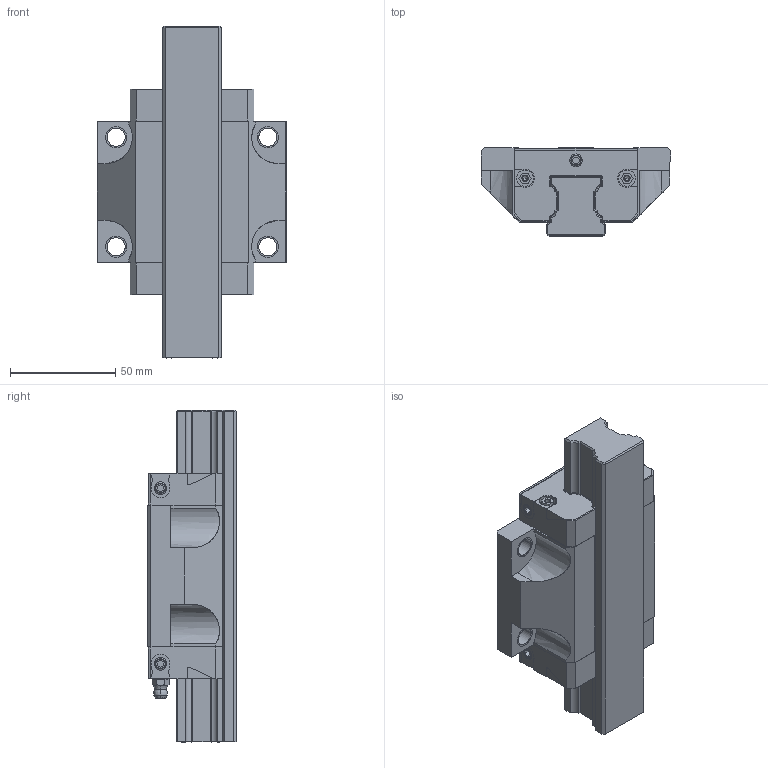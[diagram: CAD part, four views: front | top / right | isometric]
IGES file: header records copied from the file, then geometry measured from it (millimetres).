
Start section: 3D InterOp IGES (v. 2019 1.0.2), Spatial Corp. Copyright (c) 1999-2017.
Global section: file name: R2001 ... 90_size30.igs; native system: Spatial Corp.; preprocessor: 3D InterOp GENERIC/IGES 3.0; author: Noname; organization: Noname; date: 20220629.155230; units: millimetre
Bounding box: 90 x 42 x 157.7 mm (x, y, z)
Surface area: 69187.2 mm2 (no closed solid volume)
Topology: 0 solids, 0 shells, 569 faces, 3088 edges, 3066 vertices
Faces by surface type: extrusion 318, revolution 251
